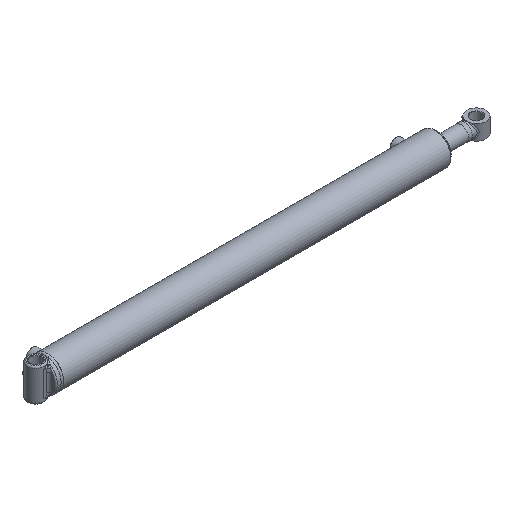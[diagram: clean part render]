
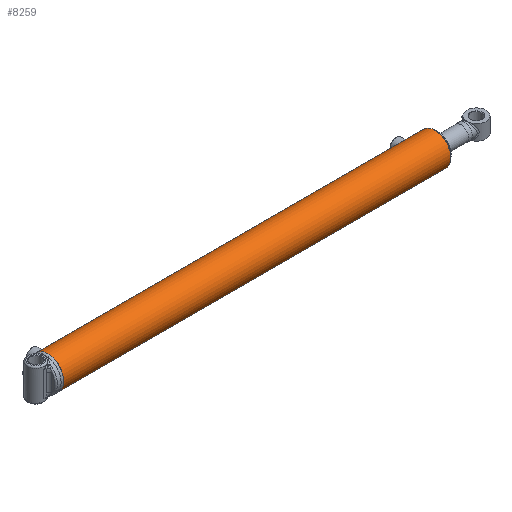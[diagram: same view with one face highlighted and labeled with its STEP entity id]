
A CAD part, isometric view. The second image highlights one B-rep face of the part: STEP entity #8259.
In plain terms, the highlighted cylindrical face has radius 36.513 mm (diameter 73.025 mm), a full revolution.
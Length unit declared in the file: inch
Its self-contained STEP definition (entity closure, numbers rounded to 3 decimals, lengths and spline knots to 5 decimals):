
#713=B_SPLINE_CURVE_WITH_KNOTS('',3,(#12235,#12236,#12237,#12238,#12239,
#12240,#12241,#12242,#12243,#12244),.UNSPECIFIED.,.F.,.F.,(4,2,2,2,4),(0.,
0.17962,0.35924,0.53885,0.71847),
 .UNSPECIFIED.);
#714=B_SPLINE_CURVE_WITH_KNOTS('',3,(#12245,#12246,#12247,#12248,#12249,
#12250,#12251,#12252,#12253,#12254,#12255,#12256,#12257,#12258,#12259,#12260,
#12261,#12262,#12263,#12264,#12265,#12266,#12267,#12268,#12269,#12270),
 .UNSPECIFIED.,.F.,.F.,(4,2,2,2,2,2,2,2,2,2,2,2,4),(0.71847,0.89808,
1.0777,1.25732,1.43694,1.61655,1.79617,
1.97579,2.1554,2.33502,2.51464,2.69425,
2.87387),.UNSPECIFIED.);
#715=B_SPLINE_CURVE_WITH_KNOTS('',3,(#12275,#12276,#12277,#12278,#12279,
#12280,#12281,#12282,#12283,#12284),.UNSPECIFIED.,.F.,.F.,(4,2,2,2,4),(0.,
0.17962,0.35924,0.53885,0.71847),
 .UNSPECIFIED.);
#716=B_SPLINE_CURVE_WITH_KNOTS('',3,(#12285,#12286,#12287,#12288,#12289,
#12290,#12291,#12292,#12293,#12294,#12295,#12296,#12297,#12298,#12299,#12300,
#12301,#12302,#12303,#12304,#12305,#12306,#12307,#12308,#12309,#12310),
 .UNSPECIFIED.,.F.,.F.,(4,2,2,2,2,2,2,2,2,2,2,2,4),(0.71847,0.89808,
1.0777,1.25732,1.43694,1.61655,1.79617,
1.97579,2.1554,2.33502,2.51464,2.69425,
2.87387),.UNSPECIFIED.);
#1063=FACE_BOUND('',#2630,.T.);
#1064=FACE_BOUND('',#2631,.T.);
#1342=LINE('',#12338,#1685);
#1685=VECTOR('',#10083,1.4375);
#2025=CYLINDRICAL_SURFACE('',#9126,1.4375);
#2115=FACE_OUTER_BOUND('',#2629,.T.);
#2629=EDGE_LOOP('',(#5794,#5795,#5796,#5797,#5798,#5799));
#2630=EDGE_LOOP('',(#5800,#5801));
#2631=EDGE_LOOP('',(#5802,#5803));
#3228=CIRCLE('',#9123,1.4375);
#3230=CIRCLE('',#9125,1.4375);
#3231=CIRCLE('',#9127,1.4375);
#3232=CIRCLE('',#9128,1.4375);
#3701=VERTEX_POINT('',#12232);
#3702=VERTEX_POINT('',#12234);
#3703=VERTEX_POINT('',#12272);
#3704=VERTEX_POINT('',#12274);
#3711=VERTEX_POINT('',#12331);
#3712=VERTEX_POINT('',#12332);
#3713=VERTEX_POINT('',#12337);
#3714=VERTEX_POINT('',#12339);
#4507=EDGE_CURVE('',#3702,#3701,#713,.T.);
#4508=EDGE_CURVE('',#3701,#3702,#714,.T.);
#4510=EDGE_CURVE('',#3704,#3703,#715,.T.);
#4511=EDGE_CURVE('',#3703,#3704,#716,.T.);
#4521=EDGE_CURVE('',#3711,#3712,#3228,.T.);
#4523=EDGE_CURVE('',#3712,#3711,#3230,.T.);
#4524=EDGE_CURVE('',#3711,#3713,#1342,.T.);
#4525=EDGE_CURVE('',#3714,#3713,#3231,.T.);
#4526=EDGE_CURVE('',#3713,#3714,#3232,.T.);
#5794=ORIENTED_EDGE('',*,*,#4521,.F.);
#5795=ORIENTED_EDGE('',*,*,#4524,.T.);
#5796=ORIENTED_EDGE('',*,*,#4525,.F.);
#5797=ORIENTED_EDGE('',*,*,#4526,.F.);
#5798=ORIENTED_EDGE('',*,*,#4524,.F.);
#5799=ORIENTED_EDGE('',*,*,#4523,.F.);
#5800=ORIENTED_EDGE('',*,*,#4507,.T.);
#5801=ORIENTED_EDGE('',*,*,#4508,.T.);
#5802=ORIENTED_EDGE('',*,*,#4510,.T.);
#5803=ORIENTED_EDGE('',*,*,#4511,.T.);
#8259=ADVANCED_FACE('',(#2115,#1063,#1064),#2025,.T.);
#9123=AXIS2_PLACEMENT_3D('',#12333,#10075,#10076);
#9125=AXIS2_PLACEMENT_3D('',#12335,#10079,#10080);
#9126=AXIS2_PLACEMENT_3D('',#12336,#10081,#10082);
#9127=AXIS2_PLACEMENT_3D('',#12340,#10084,#10085);
#9128=AXIS2_PLACEMENT_3D('',#12341,#10086,#10087);
#10075=DIRECTION('center_axis',(1.,0.,0.));
#10076=DIRECTION('ref_axis',(0.,-1.,0.));
#10079=DIRECTION('center_axis',(1.,0.,0.));
#10080=DIRECTION('ref_axis',(0.,-1.,0.));
#10081=DIRECTION('center_axis',(1.,0.,0.));
#10082=DIRECTION('ref_axis',(0.,-1.,0.));
#10083=DIRECTION('',(-1.,0.,0.));
#10084=DIRECTION('center_axis',(-1.,0.,0.));
#10085=DIRECTION('ref_axis',(0.,-1.,0.));
#10086=DIRECTION('center_axis',(-1.,0.,0.));
#10087=DIRECTION('ref_axis',(0.,-1.,0.));
#12232=CARTESIAN_POINT('',(0.5925,0.,1.4375));
#12234=CARTESIAN_POINT('',(0.78,-0.1875,1.42522));
#12235=CARTESIAN_POINT('Ctrl Pts',(0.78,-0.1875,1.42522));
#12236=CARTESIAN_POINT('Ctrl Pts',(0.75643,-0.1875,1.42522));
#12237=CARTESIAN_POINT('Ctrl Pts',(0.7313,-0.18278,
1.42586));
#12238=CARTESIAN_POINT('Ctrl Pts',(0.68512,-0.16364,
1.42819));
#12239=CARTESIAN_POINT('Ctrl Pts',(0.66405,-0.14921,
1.42983));
#12240=CARTESIAN_POINT('Ctrl Pts',(0.63079,-0.11595,
1.43291));
#12241=CARTESIAN_POINT('Ctrl Pts',(0.61636,-0.09488,
1.43455));
#12242=CARTESIAN_POINT('Ctrl Pts',(0.59722,-0.0487,
1.43686));
#12243=CARTESIAN_POINT('Ctrl Pts',(0.5925,-0.02357,1.4375));
#12244=CARTESIAN_POINT('Ctrl Pts',(0.5925,0.,1.4375));
#12245=CARTESIAN_POINT('Ctrl Pts',(0.5925,0.,1.4375));
#12246=CARTESIAN_POINT('Ctrl Pts',(0.5925,0.02357,1.4375));
#12247=CARTESIAN_POINT('Ctrl Pts',(0.59722,0.0487,
1.43686));
#12248=CARTESIAN_POINT('Ctrl Pts',(0.61636,0.09488,
1.43455));
#12249=CARTESIAN_POINT('Ctrl Pts',(0.63079,0.11595,
1.43291));
#12250=CARTESIAN_POINT('Ctrl Pts',(0.66405,0.14921,
1.42983));
#12251=CARTESIAN_POINT('Ctrl Pts',(0.68512,0.16364,
1.42819));
#12252=CARTESIAN_POINT('Ctrl Pts',(0.7313,0.18278,
1.42586));
#12253=CARTESIAN_POINT('Ctrl Pts',(0.75643,0.1875,1.42522));
#12254=CARTESIAN_POINT('Ctrl Pts',(0.80357,0.1875,1.42522));
#12255=CARTESIAN_POINT('Ctrl Pts',(0.8287,0.18278,
1.42586));
#12256=CARTESIAN_POINT('Ctrl Pts',(0.87488,0.16364,
1.42819));
#12257=CARTESIAN_POINT('Ctrl Pts',(0.89595,0.14921,
1.42983));
#12258=CARTESIAN_POINT('Ctrl Pts',(0.92921,0.11595,
1.43291));
#12259=CARTESIAN_POINT('Ctrl Pts',(0.94364,0.09488,
1.43455));
#12260=CARTESIAN_POINT('Ctrl Pts',(0.96278,0.0487,
1.43686));
#12261=CARTESIAN_POINT('Ctrl Pts',(0.9675,0.02357,1.4375));
#12262=CARTESIAN_POINT('Ctrl Pts',(0.9675,-0.02357,1.4375));
#12263=CARTESIAN_POINT('Ctrl Pts',(0.96278,-0.0487,
1.43686));
#12264=CARTESIAN_POINT('Ctrl Pts',(0.94364,-0.09488,
1.43455));
#12265=CARTESIAN_POINT('Ctrl Pts',(0.92921,-0.11595,
1.43291));
#12266=CARTESIAN_POINT('Ctrl Pts',(0.89595,-0.14921,
1.42983));
#12267=CARTESIAN_POINT('Ctrl Pts',(0.87488,-0.16364,
1.42819));
#12268=CARTESIAN_POINT('Ctrl Pts',(0.8287,-0.18278,
1.42586));
#12269=CARTESIAN_POINT('Ctrl Pts',(0.80357,-0.1875,1.42522));
#12270=CARTESIAN_POINT('Ctrl Pts',(0.78,-0.1875,1.42522));
#12272=CARTESIAN_POINT('',(33.6095,0.,1.4375));
#12274=CARTESIAN_POINT('',(33.797,-0.1875,1.42522));
#12275=CARTESIAN_POINT('Ctrl Pts',(33.797,-0.1875,1.42522));
#12276=CARTESIAN_POINT('Ctrl Pts',(33.77343,-0.1875,
1.42522));
#12277=CARTESIAN_POINT('Ctrl Pts',(33.7483,-0.18278,
1.42586));
#12278=CARTESIAN_POINT('Ctrl Pts',(33.70212,-0.16364,
1.42819));
#12279=CARTESIAN_POINT('Ctrl Pts',(33.68105,-0.14921,
1.42983));
#12280=CARTESIAN_POINT('Ctrl Pts',(33.64779,-0.11595,1.43291));
#12281=CARTESIAN_POINT('Ctrl Pts',(33.63336,-0.09488,
1.43455));
#12282=CARTESIAN_POINT('Ctrl Pts',(33.61422,-0.0487,
1.43686));
#12283=CARTESIAN_POINT('Ctrl Pts',(33.6095,-0.02357,1.4375));
#12284=CARTESIAN_POINT('Ctrl Pts',(33.6095,0.,1.4375));
#12285=CARTESIAN_POINT('Ctrl Pts',(33.6095,0.,1.4375));
#12286=CARTESIAN_POINT('Ctrl Pts',(33.6095,0.02357,1.4375));
#12287=CARTESIAN_POINT('Ctrl Pts',(33.61422,0.0487,
1.43686));
#12288=CARTESIAN_POINT('Ctrl Pts',(33.63336,0.09488,
1.43455));
#12289=CARTESIAN_POINT('Ctrl Pts',(33.64779,0.11595,1.43291));
#12290=CARTESIAN_POINT('Ctrl Pts',(33.68105,0.14921,1.42983));
#12291=CARTESIAN_POINT('Ctrl Pts',(33.70212,0.16364,1.42819));
#12292=CARTESIAN_POINT('Ctrl Pts',(33.7483,0.18278,1.42586));
#12293=CARTESIAN_POINT('Ctrl Pts',(33.77343,0.1875,1.42522));
#12294=CARTESIAN_POINT('Ctrl Pts',(33.82057,0.1875,1.42522));
#12295=CARTESIAN_POINT('Ctrl Pts',(33.8457,0.18278,1.42586));
#12296=CARTESIAN_POINT('Ctrl Pts',(33.89188,0.16364,1.42819));
#12297=CARTESIAN_POINT('Ctrl Pts',(33.91295,0.14921,1.42983));
#12298=CARTESIAN_POINT('Ctrl Pts',(33.94621,0.11595,1.43291));
#12299=CARTESIAN_POINT('Ctrl Pts',(33.96064,0.09488,
1.43455));
#12300=CARTESIAN_POINT('Ctrl Pts',(33.97978,0.0487,
1.43686));
#12301=CARTESIAN_POINT('Ctrl Pts',(33.9845,0.02357,1.4375));
#12302=CARTESIAN_POINT('Ctrl Pts',(33.9845,-0.02357,1.4375));
#12303=CARTESIAN_POINT('Ctrl Pts',(33.97978,-0.0487,
1.43686));
#12304=CARTESIAN_POINT('Ctrl Pts',(33.96064,-0.09488,
1.43455));
#12305=CARTESIAN_POINT('Ctrl Pts',(33.94621,-0.11595,1.43291));
#12306=CARTESIAN_POINT('Ctrl Pts',(33.91295,-0.14921,
1.42983));
#12307=CARTESIAN_POINT('Ctrl Pts',(33.89188,-0.16364,
1.42819));
#12308=CARTESIAN_POINT('Ctrl Pts',(33.8457,-0.18278,
1.42586));
#12309=CARTESIAN_POINT('Ctrl Pts',(33.82057,-0.1875,
1.42522));
#12310=CARTESIAN_POINT('Ctrl Pts',(33.797,-0.1875,1.42522));
#12331=CARTESIAN_POINT('',(35.227,1.4375,0.));
#12332=CARTESIAN_POINT('',(35.227,0.,-1.4375));
#12333=CARTESIAN_POINT('Origin',(35.227,0.,0.));
#12335=CARTESIAN_POINT('Origin',(35.227,0.,0.));
#12336=CARTESIAN_POINT('Origin',(0.,0.,0.));
#12337=CARTESIAN_POINT('',(0.09382,1.4375,0.));
#12338=CARTESIAN_POINT('',(0.,1.4375,0.));
#12339=CARTESIAN_POINT('',(0.09382,0.,1.4375));
#12340=CARTESIAN_POINT('Origin',(0.09382,0.,0.));
#12341=CARTESIAN_POINT('Origin',(0.09382,0.,0.));
